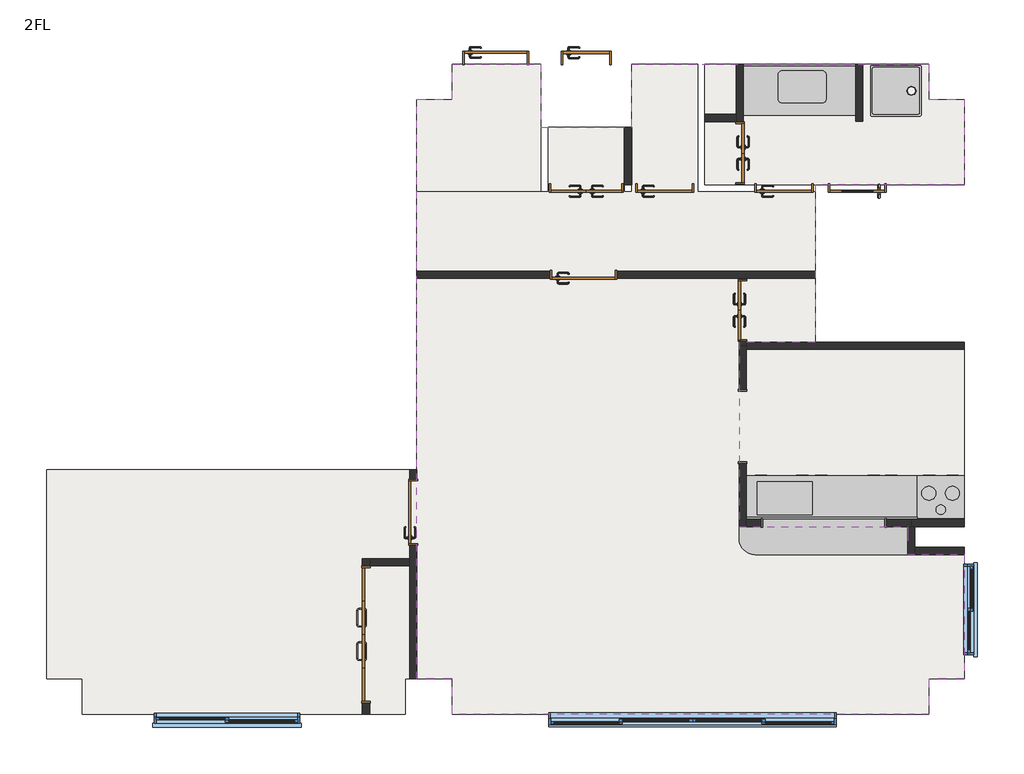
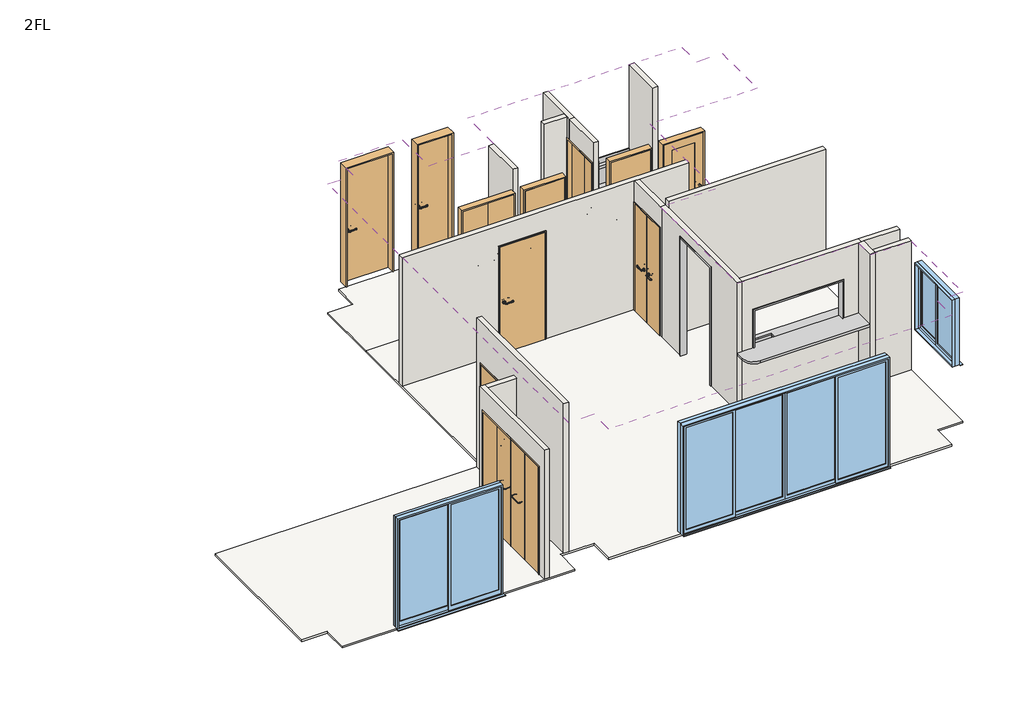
# One storey, incomplete: 16 walls, 11 doors, 4 slabs, 3 furniture elements, 3 windows, 2 flow terminals, 2 proxies, 1 covering.
"""IFC4 building model written with IfcOpenShell, lengths in millimetres."""

from ifc_helpers import new_model, si_unit, frame, origin, place, context, project, spatial, polyline, outline, extrude, faceted_brep, transform, mapped, element, save
from components import w1550h700_1b11893a, w900h2200_d33cf105, w1700h2000_7aeca4b8, w600h2200_149d3280, w700h2000_f851bcb9, w700h2000_6d93f0d2, w750h2000_bb28a540, w750h2000_6e5f9a8d, w800h2000_2b8736a8, w800h2000_587cbed2, w800h2200_05deb988, w900h2000_02bc9eed, flow_terminal_9508bbe0, flow_terminal_3a985401, furniture_17ae23b8, furniture_e3ce723a, furniture_1000mm_264b8faa, w1100h1200_97370016, w1800h2000_fa731eca, w3600_h2000_b2174b04

model = new_model("IFC4")

# Units and contexts
model_context = context("Model", 3, world=origin())
ifc_project = project(units=[si_unit("LENGTHUNIT", "METRE", prefix="MILLI")], contexts=[model_context])

# Site, building, storey
site = spatial("IfcSite", under=ifc_project)
building = spatial("IfcBuilding", under=site)
storey = spatial("IfcBuildingStorey", under=building, Name="2FL", Elevation=3155.0)

# Proxies
placement = place(None, origin())
w1550h700_shape = w1550h700_1b11893a(model_context)
element("IfcBuildingElementProxy", 1, Name="開口枠 - 鋼製 1 : W1550H700", ObjectType="開口枠 - 鋼製 1 : W1550H700", at=placement, inside=storey, context=model_context, shape_type="MappedRepresentation", body=[
    mapped(w1550h700_shape, transform((10065.0, 2500.0, 4246.8073289), x_axis=(-1.0, 0.0, 0.0), y_axis=(0.0, -1.0, 0.0), z_axis=(0.0, 0.0, 1.0))),
])
w900h2200_shape = w900h2200_d33cf105(model_context)
element("IfcBuildingElementProxy", 2, Name="開口枠 - 鋼製 1 : W900H2200", ObjectType="開口枠 - 鋼製 1 : W900H2200", at=placement, inside=storey, context=model_context, shape_type="MappedRepresentation", body=[
    mapped(w900h2200_shape, transform((8910.0, 3600.0, 3155.0), x_axis=(0.0, 1.0, 0.0), y_axis=(-1.0, 0.0, 0.0), z_axis=(0.0, 0.0, 1.0))),
])

# Covering
element("IfcCovering", 3, ObjectType="化粧石膏ボード", at=placement, inside=storey, context=model_context, shape_type="SweptSolid", body=[
    extrude(outline(polyline([(75.0, 525.0), (75.0, 3175.0), (4685.0, 3175.0), (4685.0, 525.0), (4625.0, 525.0), (4625.0, 75.0), (525.0, 75.0), (525.0, 525.0), (75.0, 525.0)])), frame((0.0, 0.0, 5555.0), z_axis=(0.0, 0.0, 1.0), x_axis=(1.0, 0.0, 0.0)), (0.0, 0.0, 1.0), 9.5),
    extrude(outline(polyline([(5225.0, 525.0), (4775.0, 525.0), (4775.0, 7875.0), (5225.0, 7875.0), (5225.0, 8325.0), (6350.0, 8325.0), (6350.0, 7525.0), (7500.0, 7525.0), (7500.0, 8325.0), (11275.0, 8325.0), (11275.0, 7875.0), (11725.0, 7875.0), (11725.0, 6795.0), (9830.0, 6795.0), (9830.0, 4795.0), (8865.0, 4795.0), (8865.0, 2455.0), (11005.0, 2455.0), (11005.0, 2100.0), (11725.0, 2100.0), (11725.0, 525.0), (11275.0, 525.0), (11275.0, 75.0), (5225.0, 75.0), (5225.0, 525.0)])), frame((0.0, 0.0, 5555.0), z_axis=(0.0, 0.0, 1.0), x_axis=(1.0, 0.0, 0.0)), (0.0, 0.0, 1.0), 9.5),
    extrude(outline(polyline([(11725.0, 2545.0), (8955.0, 2545.0), (8955.0, 4705.0), (11725.0, 4705.0), (11725.0, 2545.0)])), frame((0.0, 0.0, 5555.0), z_axis=(0.0, 0.0, 1.0), x_axis=(1.0, 0.0, 0.0)), (0.0, 0.0, 1.0), 9.5),
])

# Doors
w1700h2000_shape = w1700h2000_7aeca4b8(model_context)
element("IfcDoor", 4, ObjectType="木製折戸 : w1700h2000", at=placement, inside=storey, context=model_context, shape_type="MappedRepresentation", body=[
    mapped(w1700h2000_shape, transform((4130.0, 1085.0, 3155.0), x_axis=(0.0, 1.0, 0.0), y_axis=(-1.0, 0.0, 0.0), z_axis=(0.0, 0.0, 1.0))),
])
w600h2200_shape = w600h2200_149d3280(model_context)
element("IfcDoor", 5, ObjectType="片開き : w600h2200", at=placement, inside=storey, context=model_context, shape_type="MappedRepresentation", body=[
    mapped(w600h2200_shape, transform((6925.0, 8400.0, 3155.0), x_axis=(1.0, 0.0, 0.0), y_axis=(0.0, 1.0, 0.0), z_axis=(0.0, 0.0, 1.0))),
])
w700h2000_shape = w700h2000_f851bcb9(model_context)
element("IfcDoor", 6, ObjectType="片開き : w700h2000", at=placement, inside=storey, context=model_context, shape_type="MappedRepresentation", body=[
    mapped(w700h2000_shape, transform((7920.0, 6750.0, 3155.0), x_axis=(1.0, 0.0, 0.0), y_axis=(0.0, 1.0, 0.0), z_axis=(0.0, 0.0, 1.0))),
])
element("IfcDoor", 7, ObjectType="片開き : w700h2000", at=placement, inside=storey, context=model_context, shape_type="MappedRepresentation", body=[
    mapped(w700h2000_shape, transform((9435.0, 6750.0, 3155.0), x_axis=(1.0, 0.0, 0.0), y_axis=(0.0, 1.0, 0.0), z_axis=(0.0, 0.0, 1.0))),
])
w700h2000_2_shape = w700h2000_6d93f0d2(model_context)
element("IfcDoor", 8, ObjectType="片開き_ガラス四方框 : w700h2000", at=placement, inside=storey, context=model_context, shape_type="MappedRepresentation", body=[
    mapped(w700h2000_2_shape, transform((10365.0, 6750.0, 3155.0), x_axis=(-1.0, 0.0, 0.0), y_axis=(0.0, -1.0, 0.0), z_axis=(0.0, 0.0, 1.0))),
])
w750h2000_shape = w750h2000_bb28a540(model_context)
w750h2000_2_shape = w750h2000_6e5f9a8d(model_context)
element("IfcDoor", 9, ObjectType="両開き : w750h2000", at=placement, inside=storey, context=model_context, shape_type="MappedRepresentation", body=[
    mapped(w750h2000_shape, transform((8910.0, 5200.0, 3155.0), x_axis=(0.0, 1.0, 0.0), y_axis=(-1.0, 0.0, 0.0), z_axis=(0.0, 0.0, 1.0))),
    mapped(w750h2000_2_shape, transform((8910.0, 5200.0, 3155.0), x_axis=(0.0, 1.0, 0.0), y_axis=(-1.0, 0.0, 0.0), z_axis=(0.0, 0.0, 1.0))),
])
element("IfcDoor", 10, ObjectType="両開き : w750h2000", at=placement, inside=storey, context=model_context, shape_type="MappedRepresentation", body=[
    mapped(w750h2000_shape, transform((8875.0, 7195.0, 3155.0), x_axis=(0.0, -1.0, 0.0), y_axis=(1.0, 0.0, 0.0), z_axis=(0.0, 0.0, 1.0))),
    mapped(w750h2000_2_shape, transform((8875.0, 7195.0, 3155.0), x_axis=(0.0, -1.0, 0.0), y_axis=(1.0, 0.0, 0.0), z_axis=(0.0, 0.0, 1.0))),
])
w800h2000_shape = w800h2000_2b8736a8(model_context)
element("IfcDoor", 11, ObjectType="片開き : w800h2000", at=placement, inside=storey, context=model_context, shape_type="MappedRepresentation", body=[
    mapped(w800h2000_shape, transform((6890.0, 5650.0, 3155.0), x_axis=(1.0, 0.0, 0.0), y_axis=(0.0, 1.0, 0.0), z_axis=(0.0, 0.0, 1.0))),
])
w800h2000_2_shape = w800h2000_587cbed2(model_context)
element("IfcDoor", 12, ObjectType="片開き : w800h2000", at=placement, inside=storey, context=model_context, shape_type="MappedRepresentation", body=[
    mapped(w800h2000_2_shape, transform((4730.0, 2635.0, 3155.0), x_axis=(0.0, 1.0, 0.0), y_axis=(-1.0, 0.0, 0.0), z_axis=(0.0, 0.0, 1.0))),
])
w800h2200_shape = w800h2200_05deb988(model_context)
element("IfcDoor", 13, ObjectType="片開き : w800h2200", at=placement, inside=storey, context=model_context, shape_type="MappedRepresentation", body=[
    mapped(w800h2200_shape, transform((5775.0, 8400.0, 3155.0), x_axis=(1.0, 0.0, 0.0), y_axis=(0.0, 1.0, 0.0), z_axis=(0.0, 0.0, 1.0))),
])
w900h2000_shape = w900h2000_02bc9eed(model_context)
element("IfcDoor", 14, ObjectType="両開き : w900h2000", at=placement, inside=storey, context=model_context, shape_type="MappedRepresentation", body=[
    mapped(w750h2000_shape, transform((6925.0, 6750.0, 3155.0), x_axis=(-1.0, 0.0, 0.0), y_axis=(0.0, -1.0, 0.0), z_axis=(0.0, 0.0, 1.0))),
    mapped(w900h2000_shape, transform((6925.0, 6750.0, 3155.0), x_axis=(-1.0, 0.0, 0.0), y_axis=(0.0, -1.0, 0.0), z_axis=(0.0, 0.0, 1.0))),
])

# Flow terminals
flow_terminal_shape = flow_terminal_9508bbe0(model_context)
element("IfcFlowTerminal", 15, ObjectType="洗濯機パン : 洗濯機パン", at=placement, inside=storey, context=model_context, shape_type="MappedRepresentation", body=[
    mapped(flow_terminal_shape, transform((10855.0, 7985.0, 3155.0), x_axis=(1.0, 0.0, 0.0), y_axis=(0.0, 1.0, 0.0), z_axis=(0.0, 0.0, 1.0))),
])
flow_terminal_2_shape = flow_terminal_3a985401(model_context)
element("IfcFlowTerminal", 16, ObjectType="システムキッチンIH\u3000W2770 : システムキッチンIH\u3000W2770", at=placement, inside=storey, context=model_context, shape_type="MappedRepresentation", body=[
    mapped(flow_terminal_2_shape, transform((11725.0, 2545.0, 3155.0), x_axis=(1.0, 0.0, 0.0), y_axis=(0.0, 1.0, 0.0), z_axis=(0.0, 0.0, 1.0))),
])

# Furniture
furniture_shape = furniture_17ae23b8(model_context)
element("IfcFurniture", 17, ObjectType="キッチンカウンター : キッチンカウンター", at=placement, inside=storey, context=model_context, shape_type="MappedRepresentation", body=[
    mapped(furniture_shape, transform((11005.0, 2545.0, 3155.0), x_axis=(1.0, 0.0, 0.0), y_axis=(0.0, 1.0, 0.0), z_axis=(0.0, 0.0, 1.0))),
])
furniture_2_shape = furniture_e3ce723a(model_context)
element("IfcFurniture", 18, ObjectType="洗面カウンタ 正方形 シンク開口 - 3D : 奥行き 650 mm", at=placement, inside=storey, context=model_context, shape_type="MappedRepresentation", body=[
    mapped(furniture_2_shape, transform((10120.4622951, 8325.0, 3155.0), x_axis=(1.0, 0.0, 0.0), y_axis=(0.0, 1.0, 0.0), z_axis=(0.0, 0.0, 1.0))),
])
furniture_1000mm_shape = furniture_1000mm_264b8faa(model_context)
element("IfcFurniture", 19, ObjectType="化粧台 - 両開きドア シンク ユニット - 3D : 1000mm", at=placement, inside=storey, context=model_context, shape_type="MappedRepresentation", body=[
    mapped(furniture_1000mm_shape, transform((9613.7622951, 8325.0, 3155.0), x_axis=(1.0, 0.0, 0.0), y_axis=(0.0, 1.0, 0.0), z_axis=(0.0, 0.0, 1.0))),
])

# Slabs
element("IfcSlab", 20, ObjectType="磁器タイル", at=placement, inside=storey, context=model_context, shape_type="SweptSolid", body=[
    extrude(outline(polyline([(5225.0, 7875.0), (5225.0, 8325.0), (6350.0, 8325.0), (6350.0, 6705.0), (4775.0, 6705.0), (4775.0, 7875.0), (5225.0, 7875.0)])), frame((0.0, 0.0, 3120.0), z_axis=(0.0, 0.0, 1.0), x_axis=(1.0, 0.0, 0.0)), (0.0, 0.0, 1.0), 35.0),
])
element("IfcSlab", 21, ObjectType="フローリング", at=placement, inside=storey, context=model_context, shape_type="SweptSolid", body=[
    extrude(outline(polyline([(4775.0, 3175.0), (4775.0, 6705.0), (6440.0, 6705.0), (6440.0, 7525.0), (7410.0, 7525.0), (7410.0, 6705.0), (7500.0, 6705.0), (7500.0, 8325.0), (8340.0, 8325.0), (8340.0, 6705.0), (9830.0, 6705.0), (9830.0, 4705.0), (11725.0, 4705.0), (11725.0, 2545.0), (11005.0, 2545.0), (11005.0, 2100.0), (11725.0, 2100.0), (11725.0, 525.0), (11275.0, 525.0), (11275.0, 75.0), (5225.0, 75.0), (5225.0, 525.0), (4625.0, 525.0), (4625.0, 75.0), (525.0, 75.0), (525.0, 525.0), (75.0, 525.0), (75.0, 3175.0), (4775.0, 3175.0)])), frame((0.0, 0.0, 3120.0), z_axis=(0.0, 0.0, 1.0), x_axis=(1.0, 0.0, 0.0)), (0.0, 0.0, 1.0), 35.0),
])
element("IfcSlab", 22, ObjectType="クッションフロアシート", at=placement, inside=storey, context=model_context, shape_type="SweptSolid", body=[
    extrude(outline(polyline([(11275.0, 8325.0), (11275.0, 7875.0), (11725.0, 7875.0), (11725.0, 6795.0), (8430.0, 6795.0), (8430.0, 7685.0), (8830.0, 7685.0), (8830.0, 8325.0), (11275.0, 8325.0)])), frame((0.0, 0.0, 2940.0), z_axis=(0.0, 0.0, 1.0), x_axis=(1.0, 0.0, 0.0)), (0.0, 0.0, 1.0), 215.0),
])
element("IfcSlab", 23, ObjectType="防水モルタル", at=placement, inside=storey, context=model_context, shape_type="SweptSolid", body=[
    extrude(outline(polyline([(8830.0, 8325.0), (8830.0, 7685.0), (8430.0, 7685.0), (8430.0, 8325.0), (8830.0, 8325.0)])), frame((0.0, 0.0, 3120.0), z_axis=(0.0, 0.0, 1.0), x_axis=(1.0, 0.0, 0.0)), (0.0, 0.0, 1.0), 35.0),
])

# Walls
element("IfcWall", 24, ObjectType="標準-90mm", at=placement, inside=storey, context=model_context, shape_type="Brep", body=[
    faceted_brep([(4685.0, 3175.0, 5940.0), (4685.0, 3175.0, 3155.0), (4685.0, 3055.0, 3155.0), (4685.0, 3055.0, 5175.0), (4685.0, 2215.0, 5175.0), (4685.0, 2215.0, 3155.0), (4685.0, 2045.0, 3155.0), (4685.0, 1955.0, 3155.0), (4685.0, 525.0, 3155.0), (4685.0, 525.0, 5940.0), (4775.0, 3175.0, 3155.0), (4775.0, 3175.0, 5940.0), (4775.0, 525.0, 5940.0), (4775.0, 525.0, 3155.0), (4775.0, 2215.0, 3155.0), (4775.0, 2215.0, 5175.0), (4775.0, 3055.0, 5175.0), (4775.0, 3055.0, 3155.0)], [[[0, 1, 2, 3, 4, 5, 6, 7, 8, 9]], [[10, 11, 12, 13, 14, 15, 16, 17]], [[1, 10, 17, 2]], [[5, 14, 13, 8, 7, 6]], [[11, 0, 9, 12]], [[1, 0, 11, 10]], [[17, 16, 3, 2]], [[15, 14, 5, 4]], [[16, 15, 4, 3]], [[9, 8, 13, 12]]]),
])
element("IfcWall", 25, ObjectType="標準-90mm", at=placement, inside=storey, context=model_context, shape_type="Brep", body=[
    faceted_brep([(4175.0, 75.0, 3155.0), (4175.0, 215.0, 3155.0), (4175.0, 215.0, 5175.0), (4175.0, 1955.0, 5175.0), (4175.0, 1955.0, 3155.0), (4175.0, 2045.0, 3155.0), (4175.0, 2045.0, 5555.0), (4175.0, 1955.0, 5555.0), (4175.0, 75.0, 5555.0), (4085.0, 215.0, 5175.0), (4085.0, 215.0, 3155.0), (4085.0, 75.0, 3155.0), (4085.0, 75.0, 5555.0), (4085.0, 2045.0, 5555.0), (4085.0, 2045.0, 3155.0), (4085.0, 1955.0, 3155.0), (4085.0, 1955.0, 5175.0)], [[[0, 1, 2, 3, 4, 5, 6, 7, 8]], [[9, 10, 11, 12, 13, 14, 15, 16]], [[15, 14, 5, 4]], [[11, 10, 1, 0]], [[8, 7, 6, 13, 12]], [[0, 8, 12, 11]], [[6, 5, 14, 13]], [[4, 3, 16, 15]], [[2, 1, 10, 9]], [[3, 2, 9, 16]]]),
])
element("IfcWall", 26, ObjectType="標準-90mm", at=placement, inside=storey, context=model_context, shape_type="SweptSolid", body=[
    extrude(outline(polyline([(4685.0, 1955.0), (4175.0, 1955.0), (4175.0, 2045.0), (4685.0, 2045.0), (4685.0, 1955.0)])), frame((0.0, 0.0, 3155.0), z_axis=(0.0, 0.0, 1.0), x_axis=(1.0, 0.0, 0.0)), (0.0, 0.0, 1.0), 2400.0),
])
element("IfcWall", 27, ObjectType="標準-90mm", at=placement, inside=storey, context=model_context, shape_type="SweptSolid", body=[
    extrude(outline(polyline([(7410.0, 6795.0), (7410.0, 7525.0), (7500.0, 7525.0), (7500.0, 6795.0), (7410.0, 6795.0)])), frame((0.0, 0.0, 3155.0), z_axis=(0.0, 0.0, 1.0), x_axis=(1.0, 0.0, 0.0)), (0.0, 0.0, 1.0), 2400.0),
])
element("IfcWall", 28, ObjectType="標準-90mm", at=placement, inside=storey, context=model_context, shape_type="SweptSolid", body=[
    extrude(outline(polyline([(8830.0, 7595.0), (8430.0, 7595.0), (8430.0, 7685.0), (8830.0, 7685.0), (8830.0, 7595.0)])), frame((0.0, 0.0, 3155.0), z_axis=(0.0, 0.0, 1.0), x_axis=(1.0, 0.0, 0.0)), (0.0, 0.0, 1.0), 2400.0),
])
element("IfcWall", 29, ObjectType="標準-90mm", at=placement, inside=storey, context=model_context, shape_type="Brep", body=[
    faceted_brep([(8830.0, 7525.0, 5555.0), (8830.0, 7595.0, 5555.0), (8830.0, 7685.0, 5555.0), (8830.0, 8325.0, 5555.0), (8830.0, 8325.0, 3155.0), (8830.0, 7685.0, 3155.0), (8830.0, 7595.0, 3155.0), (8830.0, 7590.0, 3155.0), (8830.0, 7590.0, 5175.0), (8830.0, 7525.0, 5175.0), (8920.0, 8325.0, 5555.0), (8920.0, 7525.0, 5555.0), (8920.0, 7525.0, 5175.0), (8920.0, 7590.0, 5175.0), (8920.0, 7590.0, 3155.0), (8920.0, 8325.0, 3155.0)], [[[0, 1, 2, 3, 4, 5, 6, 7, 8, 9]], [[10, 11, 12, 13, 14, 15]], [[4, 15, 14, 7, 6, 5]], [[11, 0, 9, 12]], [[3, 2, 1, 0, 11, 10]], [[4, 3, 10, 15]], [[13, 8, 7, 14]], [[8, 13, 12, 9]]]),
])
element("IfcWall", 30, ObjectType="標準-90mm", at=placement, inside=storey, context=model_context, shape_type="SweptSolid", body=[
    extrude(outline(polyline([(10345.0, 7600.0), (10345.0, 8325.0), (10435.0, 8325.0), (10435.0, 7600.0), (10345.0, 7600.0)])), frame((0.0, 0.0, 3155.0), z_axis=(0.0, 0.0, 1.0), x_axis=(1.0, 0.0, 0.0)), (0.0, 0.0, 1.0), 2400.0),
])
element("IfcWall", 31, ObjectType="標準-90mm", at=placement, inside=storey, context=model_context, shape_type="Brep", body=[
    faceted_brep([(11725.0, 4795.0, 3155.0), (8955.0, 4795.0, 3155.0), (8955.0, 4795.0, 5555.0), (8955.0, 4795.0, 5564.5), (8955.0, 4795.0, 5690.0), (11725.0, 4795.0, 5690.0), (11725.0, 4705.0, 3155.0), (11725.0, 4705.0, 5690.0), (8955.0, 4705.0, 5690.0), (8955.0, 4705.0, 3155.0), (8955.0, 4750.0, 3155.0)], [[[0, 1, 2, 3, 4, 5]], [[6, 7, 8, 9]], [[1, 0, 6, 9, 10]], [[5, 4, 8, 7]], [[0, 5, 7, 6]], [[1, 10, 9, 8, 4, 3, 2]]]),
])
element("IfcWall", 32, ObjectType="標準-90mm", at=placement, inside=storey, context=model_context, shape_type="Brep", body=[
    faceted_brep([(8865.0, 4805.0, 5175.0), (8865.0, 4805.0, 3155.0), (8865.0, 4750.0, 3155.0), (8865.0, 4750.0, 5555.0), (8865.0, 4795.0, 5555.0), (8865.0, 5605.0, 5555.0), (8865.0, 5605.0, 3155.0), (8865.0, 5595.0, 3155.0), (8865.0, 5595.0, 5175.0), (8955.0, 4750.0, 3155.0), (8955.0, 4795.0, 3155.0), (8955.0, 4805.0, 3155.0), (8955.0, 4805.0, 5175.0), (8955.0, 5595.0, 5175.0), (8955.0, 5595.0, 3155.0), (8955.0, 5605.0, 3155.0), (8955.0, 5605.0, 5555.0), (8955.0, 4795.0, 5555.0), (8955.0, 4750.0, 5555.0)], [[[0, 1, 2, 3, 4, 5, 6, 7, 8]], [[9, 10, 11, 12, 13, 14, 15, 16, 17, 18]], [[7, 6, 15, 14]], [[2, 1, 11, 10, 9]], [[3, 2, 9, 18]], [[5, 4, 3, 18, 17, 16]], [[6, 5, 16, 15]], [[14, 13, 8, 7]], [[12, 11, 1, 0]], [[13, 12, 0, 8]]]),
])
element("IfcWall", 33, ObjectType="標準-90mm", at=placement, inside=storey, context=model_context, shape_type="Brep", body=[
    faceted_brep([(8955.0, 2455.0, 3155.0), (11005.0, 2455.0, 3155.0), (11050.0, 2455.0, 3155.0), (11050.0, 2455.0, 5564.5), (11005.0, 2455.0, 5564.5), (8955.0, 2455.0, 5564.5), (10740.0, 2455.0, 4971.8073289), (10740.0, 2455.0, 4246.8073289), (9140.0, 2455.0, 4246.8073289), (9140.0, 2455.0, 4971.8073289), (8955.0, 2545.0, 3155.0), (8955.0, 2545.0, 5564.5), (11050.0, 2545.0, 5564.5), (11050.0, 2545.0, 3155.0), (10740.0, 2545.0, 4971.8073289), (9140.0, 2545.0, 4971.8073289), (9140.0, 2545.0, 4246.8073289), (10740.0, 2545.0, 4246.8073289)], [[[0, 1, 2, 3, 4, 5], [6, 7, 8, 9]], [[10, 11, 12, 13], [14, 15, 16, 17]], [[2, 1, 0, 10, 13]], [[3, 2, 13, 12]], [[5, 4, 3, 12, 11]], [[0, 5, 11, 10]], [[7, 6, 14, 17]], [[8, 7, 17, 16]], [[9, 8, 16, 15]], [[6, 9, 15, 14]]]),
])
element("IfcWall", 34, ObjectType="標準-90mm", at=placement, inside=storey, context=model_context, shape_type="Brep", body=[
    faceted_brep([(11005.0, 2455.0, 3155.0), (11005.0, 2100.0, 3155.0), (11005.0, 2100.0, 5564.5), (11005.0, 2455.0, 5564.5), (11095.0, 2455.0, 3155.0), (11095.0, 2455.0, 5564.5), (11095.0, 2190.0, 5564.5), (11095.0, 2100.0, 5564.5), (11095.0, 2100.0, 3155.0), (11095.0, 2190.0, 3155.0), (11050.0, 2455.0, 3155.0), (11050.0, 2455.0, 5564.5)], [[[0, 1, 2, 3]], [[4, 5, 6, 7, 8, 9]], [[1, 0, 10, 4, 9, 8]], [[3, 2, 7, 6, 5, 11]], [[2, 1, 8, 7]], [[0, 3, 11, 5, 4, 10]]]),
])
element("IfcWall", 35, ObjectType="標準-90mm", at=placement, inside=storey, context=model_context, shape_type="SweptSolid", body=[
    extrude(outline(polyline([(11725.0, 2100.0), (11095.0, 2100.0), (11095.0, 2190.0), (11725.0, 2190.0), (11725.0, 2100.0)])), frame((0.0, 0.0, 3155.0), z_axis=(0.0, 0.0, 1.0), x_axis=(1.0, 0.0, 0.0)), (0.0, 0.0, 1.0), 2409.5),
])
element("IfcWall", 36, ObjectType="標準-90mm", at=placement, inside=storey, context=model_context, shape_type="Brep", body=[
    faceted_brep([(6470.0, 5695.0, 5175.0), (6470.0, 5695.0, 3155.0), (4775.0, 5695.0, 3155.0), (4775.0, 5695.0, 5555.0), (9830.0, 5695.0, 5555.0), (9830.0, 5695.0, 3155.0), (7310.0, 5695.0, 3155.0), (7310.0, 5695.0, 5175.0), (4775.0, 5605.0, 3155.0), (6470.0, 5605.0, 3155.0), (6470.0, 5605.0, 5175.0), (7310.0, 5605.0, 5175.0), (7310.0, 5605.0, 3155.0), (8865.0, 5605.0, 3155.0), (8955.0, 5605.0, 3155.0), (9830.0, 5605.0, 3155.0), (9830.0, 5605.0, 5555.0), (8955.0, 5605.0, 5555.0), (8865.0, 5605.0, 5555.0), (4775.0, 5605.0, 5555.0)], [[[0, 1, 2, 3, 4, 5, 6, 7]], [[8, 9, 10, 11, 12, 13, 14, 15, 16, 17, 18, 19]], [[6, 5, 15, 14, 13, 12]], [[2, 1, 9, 8]], [[4, 3, 19, 18, 17, 16]], [[3, 2, 8, 19]], [[5, 4, 16, 15]], [[12, 11, 7, 6]], [[10, 9, 1, 0]], [[11, 10, 0, 7]]]),
])
element("IfcWall", 37, ObjectType="標準-90mm", at=placement, inside=storey, context=model_context, shape_type="SweptSolid", body=[
    extrude(outline(polyline([(6795.0, 5555.0), (7525.0, 5555.0), (7525.0, 5175.0), (6800.0, 5175.0), (6800.0, 3155.0), (6795.0, 3155.0), (6795.0, 5555.0)])), frame((8830.0, 0.0, 0.0), z_axis=(1.0, 0.0, 0.0), x_axis=(0.0, 1.0, 0.0)), (0.0, 0.0, 1.0), 90.0),
])
element("IfcWall", 38, ObjectType="標準-90mm", at=placement, inside=storey, context=model_context, shape_type="Brep", body=[
    faceted_brep([(11050.0, 2455.0, 3155.0), (11095.0, 2455.0, 3155.0), (11725.0, 2455.0, 3155.0), (11725.0, 2455.0, 5564.5), (11095.0, 2455.0, 5564.5), (11050.0, 2455.0, 5564.5), (11050.0, 2545.0, 3155.0), (11050.0, 2545.0, 5564.5), (11725.0, 2545.0, 5564.5), (11725.0, 2545.0, 3155.0)], [[[0, 1, 2, 3, 4, 5]], [[6, 7, 8, 9]], [[2, 1, 0, 6, 9]], [[5, 4, 3, 8, 7]], [[0, 5, 7, 6]], [[3, 2, 9, 8]]]),
])
element("IfcWall", 39, ObjectType="標準-90mm", at=placement, inside=storey, context=model_context, shape_type="Brep", body=[
    faceted_brep([(8865.0, 4750.0, 3155.0), (8865.0, 4200.0, 3155.0), (8865.0, 4200.0, 5380.0), (8865.0, 3250.0, 5380.0), (8865.0, 3250.0, 3155.0), (8865.0, 2455.0, 3155.0), (8865.0, 2455.0, 5564.5), (8865.0, 4795.0, 5564.5), (8865.0, 4795.0, 5555.0), (8865.0, 4750.0, 5555.0), (8955.0, 4200.0, 5380.0), (8955.0, 4200.0, 3155.0), (8955.0, 4705.0, 3155.0), (8955.0, 4750.0, 3155.0), (8955.0, 4750.0, 5555.0), (8955.0, 4795.0, 5555.0), (8955.0, 4795.0, 5564.5), (8955.0, 2545.0, 5564.5), (8955.0, 2455.0, 5564.5), (8955.0, 2455.0, 3155.0), (8955.0, 2545.0, 3155.0), (8955.0, 3250.0, 3155.0), (8955.0, 3250.0, 5380.0)], [[[0, 1, 2, 3, 4, 5, 6, 7, 8, 9]], [[10, 11, 12, 13, 14, 15, 16, 17, 18, 19, 20, 21, 22]], [[13, 12, 11, 1, 0]], [[21, 20, 19, 5, 4]], [[7, 6, 18, 17, 16]], [[6, 5, 19, 18]], [[3, 2, 10, 22]], [[2, 1, 11, 10]], [[4, 3, 22, 21]], [[0, 9, 14, 13]], [[8, 15, 14, 9]], [[8, 7, 16, 15]]]),
])

# Windows
w1100h1200_shape = w1100h1200_97370016(model_context)
element("IfcWindow", 40, ObjectType="引違い腰窓_2枚 : W1100H1200", at=placement, inside=storey, context=model_context, shape_type="MappedRepresentation", body=[
    mapped(w1100h1200_shape, transform((11800.0, 1400.0, 3205.0), x_axis=(0.0, -1.0, 0.0), y_axis=(1.0, 0.0, 0.0), z_axis=(0.0, 0.0, 1.0))),
])
w1800h2000_shape = w1800h2000_fa731eca(model_context)
element("IfcWindow", 41, ObjectType="引違い掃出窓_2枚 : W1800H2000", at=placement, inside=storey, context=model_context, shape_type="MappedRepresentation", body=[
    mapped(w1800h2000_shape, transform((2365.0, 0.0, 3240.0), x_axis=(-1.0, 0.0, 0.0), y_axis=(0.0, -1.0, 0.0), z_axis=(0.0, 0.0, 1.0))),
])
w3600_h2000_shape = w3600_h2000_b2174b04(model_context)
element("IfcWindow", 42, ObjectType="窓 - 引違い掃出 4 枚 2 溝 - 内付 : w3600 h2000", at=placement, inside=storey, context=model_context, shape_type="MappedRepresentation", body=[
    mapped(w3600_h2000_shape, transform((8275.0, 0.0, 3215.0), x_axis=(-1.0, 0.0, 0.0), y_axis=(0.0, -1.0, 0.0), z_axis=(0.0, 0.0, 1.0))),
])

save(model, "model.ifc")
